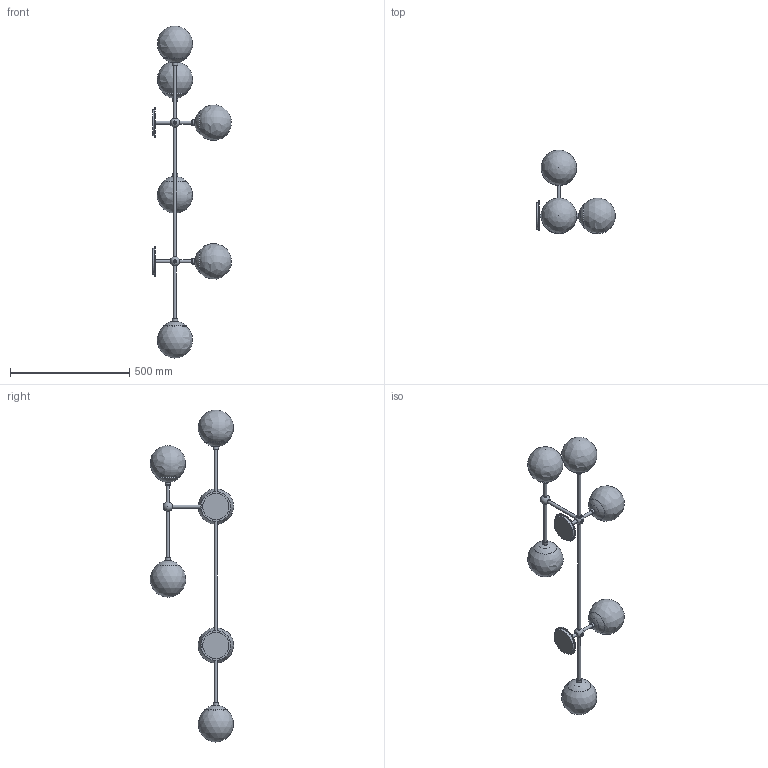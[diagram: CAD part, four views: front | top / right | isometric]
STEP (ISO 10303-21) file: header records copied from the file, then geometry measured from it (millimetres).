
FILE_DESCRIPTION(/* description */ (''),/* implementation_level */ '2;1');
FILE_NAME(/* name */ 'T:\B610 Globe Armstrong Multi Sconce Right 6\Pliki bryłowe handlowe\B610 Armstrong 6 L 3D files_na stronę\B610 Armstrong 6 L.stp',/* time_stamp */ '2022-02-02T16:27:12+01:00',/* author */ ('Mariusz Awariusz'),/* organization */ (''),/* preprocessor_version */ 'ST-DEVELOPER v18.1',/* originating_system */ 'Autodesk Inventor 2022',/* authorisation */ '');
FILE_SCHEMA (('AUTOMOTIVE_DESIGN { 1 0 10303 214 3 1 1 }'));
Length unit declared in the file: millimetre
Products named in the file (1): B610 Globe Armstrong Multi Sconce Right 6 CE_v1_na potrzeby plikó
w 3D_2_jako część_korpusy bryłowe
Bounding box: 331.37 x 350.59 x 1393.43 mm (x, y, z)
Volume: 1461178.8 mm3; surface area: 1113031.8 mm2
Topology: 41 solids, 41 shells, 330 faces, 578 edges, 373 vertices
Faces by surface type: plane 124, cylinder 112, cone 49, sphere 21, torus 12, bspline 12
Full cylindrical faces by diameter (mm): 11.6 x18, 11.917 x2, 13 x28, 13.1 x3, 13.5 x13, 16 x12, 20.6 x3, 22 x9, 23.1 x3, 23.5 x3, 50.221 x6, 110 x2, 125 x2
Entity records: 8612 total; most frequent: CARTESIAN_POINT 1936, DIRECTION 1565, ORIENTED_EDGE 1128, AXIS2_PLACEMENT_3D 694, EDGE_CURVE 564, EDGE_LOOP 399, CIRCLE 375, VERTEX_POINT 373
